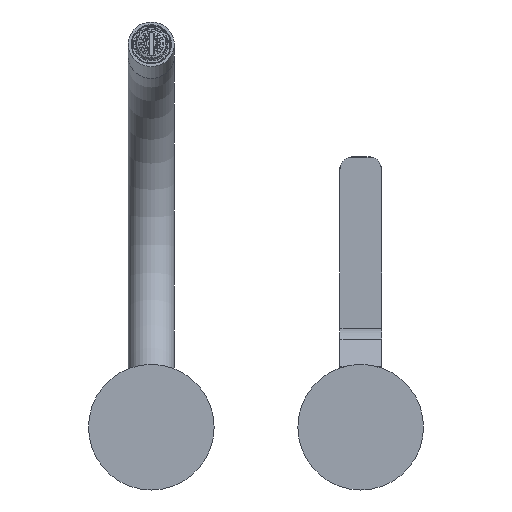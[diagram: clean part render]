
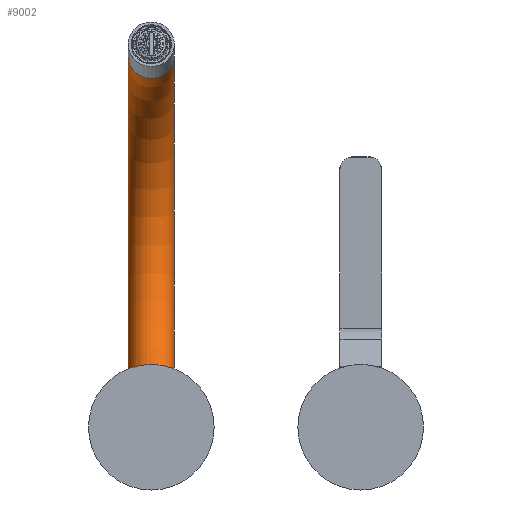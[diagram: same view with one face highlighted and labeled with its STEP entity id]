
A CAD part, front view. The second image highlights one B-rep face of the part: STEP entity #9002.
In plain terms, the highlighted toroidal (fillet/blend) face has major radius 90 mm and minor radius 11 mm.
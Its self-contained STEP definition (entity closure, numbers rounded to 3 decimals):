
#3426=CARTESIAN_POINT('',(-11.,178.3,90.));
#3427=DIRECTION('',(1.,0.,0.));
#3428=DIRECTION('',(0.,0.,-1.));
#3429=AXIS2_PLACEMENT_3D('',#3426,#3427,#3428);
#3436=CARTESIAN_POINT('',(11.,178.3,90.));
#3437=DIRECTION('',(-1.,0.,0.));
#3438=DIRECTION('',(0.,0.245,0.969));
#3439=AXIS2_PLACEMENT_3D('',#3436,#3437,#3438);
#3441=CARTESIAN_POINT('',(0.,200.38,177.249));
#3442=DIRECTION('',(0.,-0.969,0.245));
#3443=DIRECTION('',(-1.,0.,0.));
#3444=AXIS2_PLACEMENT_3D('',#3441,#3442,#3443);
#3446=CARTESIAN_POINT('',(0.,178.3,0.));
#3447=DIRECTION('',(0.,-1.,0.));
#3448=DIRECTION('',(1.,0.,0.));
#3449=AXIS2_PLACEMENT_3D('',#3446,#3447,#3448);
#5403=CARTESIAN_POINT('',(-11.,178.3,
0.));
#5404=CARTESIAN_POINT('',(-11.,200.38,177.249));
#5405=VERTEX_POINT('',#5403);
#5406=VERTEX_POINT('',#5404);
#5407=CARTESIAN_POINT('',(11.,178.3,0.));
#5408=VERTEX_POINT('',#5407);
#5409=CARTESIAN_POINT('',(11.,200.38,177.249));
#5410=VERTEX_POINT('',#5409);
#8990=CARTESIAN_POINT('',(0.,178.3,90.));
#8991=DIRECTION('',(1.,0.,0.));
#8992=DIRECTION('',(0.,0.,-1.));
#8993=AXIS2_PLACEMENT_3D('',#8990,#8991,#8992);
#8994=TOROIDAL_SURFACE('',#8993,90.,11.);
#8995=ORIENTED_EDGE('',*,*,#8936,.T.);
#8996=ORIENTED_EDGE('',*,*,#8978,.T.);
#8998=ORIENTED_EDGE('',*,*,#8997,.T.);
#8999=ORIENTED_EDGE('',*,*,#8974,.T.);
#9000=EDGE_LOOP('',(#8995,#8996,#8998,#8999));
#9001=FACE_OUTER_BOUND('',#9000,.F.);
#3430=CIRCLE('',#3429,90.);
#3440=CIRCLE('',#3439,90.);
#3445=CIRCLE('',#3444,11.);
#3450=CIRCLE('',#3449,11.);
#8936=EDGE_CURVE('',#5406,#5410,#3445,.T.);
#8974=EDGE_CURVE('',#5405,#5406,#3430,.T.);
#8978=EDGE_CURVE('',#5410,#5408,#3440,.T.);
#8997=EDGE_CURVE('',#5408,#5405,#3450,.T.);
#9002=ADVANCED_FACE('',(#9001),#8994,.T.);
